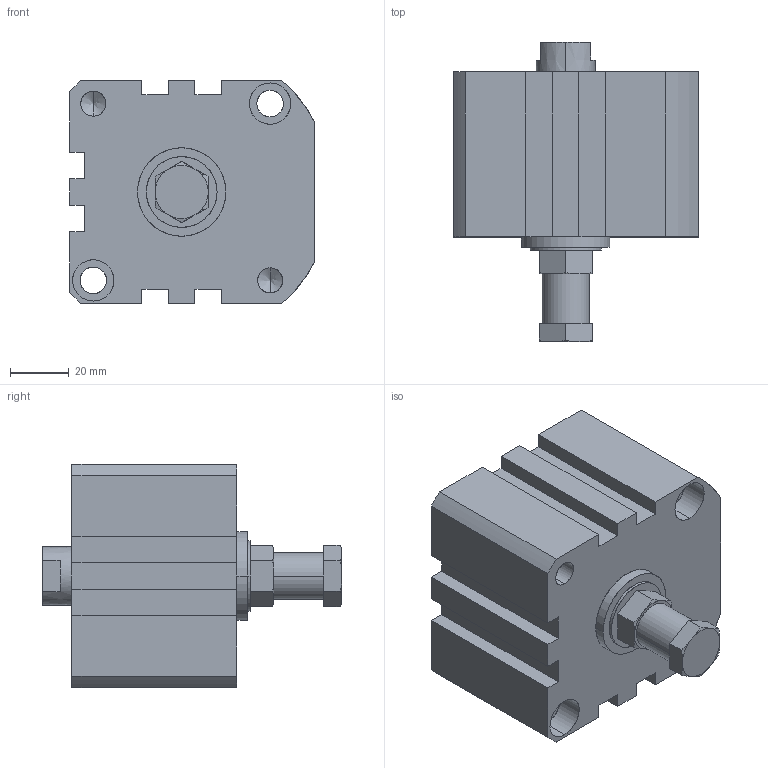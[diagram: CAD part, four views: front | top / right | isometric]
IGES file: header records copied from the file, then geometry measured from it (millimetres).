
Start section: SolidWorks IGES file using analytic representation for surfaces
Global section: file name: C:\Users\Toshiba\Desktop\XGA2-63-10.IGS; native system: SolidWorks 2014; preprocessor: SolidWorks 2014; author: Toshiba; date: 160524.104102; units: millimetre
Bounding box: 83 x 101.5 x 76 mm (x, y, z)
Surface area: 44778.3 mm2 (no closed solid volume)
Topology: 0 solids, 0 shells, 148 faces, 2571 edges, 2557 vertices
Faces by surface type: bspline 76, revolution 72
